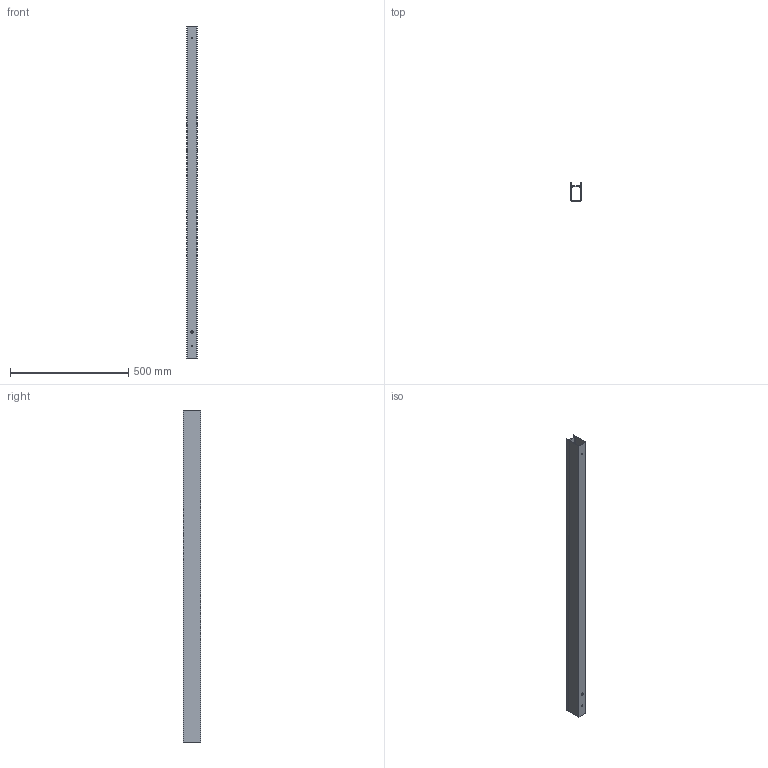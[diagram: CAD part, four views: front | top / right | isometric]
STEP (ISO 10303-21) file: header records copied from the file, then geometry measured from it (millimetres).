
FILE_DESCRIPTION (( 'STEP AP214' ), '1' );
FILE_NAME ('CENTRAL RP-RF.STEP', '2017-08-23T09:47:45', ( 'Ofitecnic3' ), ( 'Microsoft' ), 'SwSTEP 2.0', 'SolidWorks 2016', '' );
FILE_SCHEMA (( 'AUTOMOTIVE_DESIGN' ));
Length unit declared in the file: millimetre
Products named in the file (3): Difusor plástico-BIM_LED-1404mm; Perfil_extrusion (LineR)-BIM_LR2016-1404mm; CENTRAL RP-RF
Assembly tree (2 placements, depth 2):
  CENTRAL RP-RF
    Perfil_extrusion (LineR)-BIM_LR2016-1404mm
    Difusor plástico-BIM_LED-1404mm
Bounding box: 42.5 x 74.75 x 1404 mm (x, y, z)
Volume: 592468.1 mm3; surface area: 668049.8 mm2
Topology: 2 solids, 2 shells, 49 faces, 135 edges, 90 vertices
Faces by surface type: plane 34, cylinder 15
Entity records: 1703 total; most frequent: CARTESIAN_POINT 279, DIRECTION 273, ORIENTED_EDGE 270, EDGE_CURVE 135, VECTOR 105, LINE 105, VERTEX_POINT 90, AXIS2_PLACEMENT_3D 84
